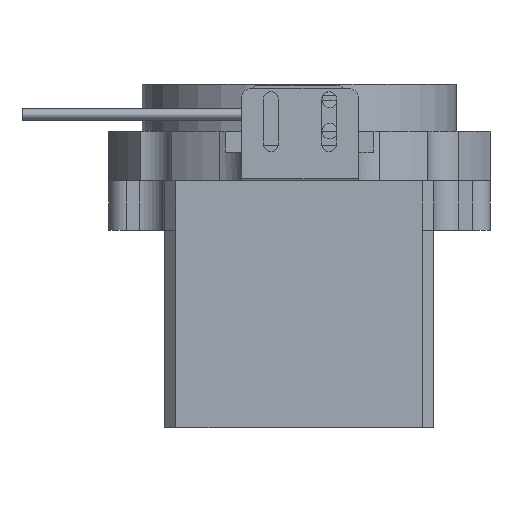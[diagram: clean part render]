
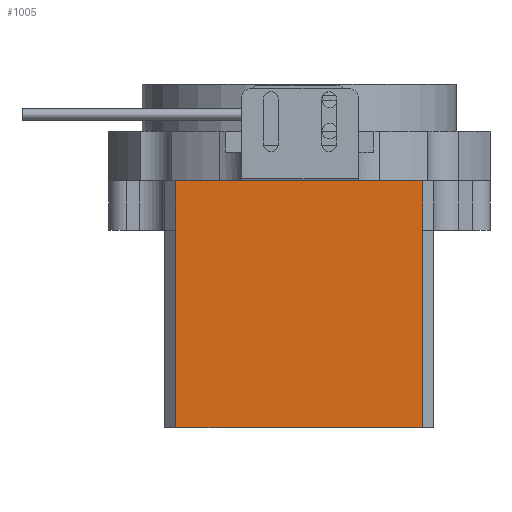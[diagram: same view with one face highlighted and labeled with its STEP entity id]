
A CAD part, front view. The second image highlights one B-rep face of the part: STEP entity #1005.
In plain terms, the highlighted planar face has unit normal (0, -1, 0).
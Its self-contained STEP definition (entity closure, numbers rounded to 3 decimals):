
#14 = CARTESIAN_POINT ( 'NONE',  ( 23.122, -60.467, 5.75 ) ) ;
#734 = VECTOR ( 'NONE', #17277, 1000. ) ;
#1005 = ADVANCED_FACE ( 'NONE', ( #4214 ), #17917, .F. ) ;
#1903 = DIRECTION ( 'NONE',  ( 1., 0., 0. ) ) ;
#2292 = VECTOR ( 'NONE', #27029, 1000. ) ;
#4214 = FACE_OUTER_BOUND ( 'NONE', #13590, .T. ) ;
#4637 = VECTOR ( 'NONE', #38061, 1000. ) ;
#5500 = VECTOR ( 'NONE', #62307, 1000. ) ;
#6724 = ORIENTED_EDGE ( 'NONE', *, *, #63860, .T. ) ;
#9513 = DIRECTION ( 'NONE',  ( 1., 0., 0. ) ) ;
#9818 = CARTESIAN_POINT ( 'NONE',  ( -31.878, -60.467, 16.75 ) ) ;
#13590 = EDGE_LOOP ( 'NONE', ( #6724, #54679, #19696, #35992, #35684, #60088 ) ) ;
#14512 = EDGE_CURVE ( 'NONE', #65666, #31486, #53789, .T. ) ;
#16252 = CARTESIAN_POINT ( 'NONE',  ( -31.878, -60.467, 38.25 ) ) ;
#17277 = DIRECTION ( 'NONE',  ( 0., 0., -1. ) ) ;
#17917 = PLANE ( 'NONE',  #28147 ) ;
#19696 = ORIENTED_EDGE ( 'NONE', *, *, #59384, .F. ) ;
#24779 = CARTESIAN_POINT ( 'NONE',  ( 23.122, -60.467, 16.75 ) ) ;
#26658 = VECTOR ( 'NONE', #56783, 1000. ) ;
#27029 = DIRECTION ( 'NONE',  ( 0., 0., -1. ) ) ;
#28147 = AXIS2_PLACEMENT_3D ( 'NONE', #56433, #55423, #9513 ) ;
#31486 = VERTEX_POINT ( 'NONE', #14 ) ;
#35684 = ORIENTED_EDGE ( 'NONE', *, *, #53393, .T. ) ;
#35992 = ORIENTED_EDGE ( 'NONE', *, *, #14512, .T. ) ;
#36449 = LINE ( 'NONE', #61982, #5500 ) ;
#38061 = DIRECTION ( 'NONE',  ( 0., 0., 1. ) ) ;
#40884 = CARTESIAN_POINT ( 'NONE',  ( -31.878, -60.467, 5.75 ) ) ;
#41893 = VERTEX_POINT ( 'NONE', #40884 ) ;
#43407 = CARTESIAN_POINT ( 'NONE',  ( -31.878, -60.467, 38.25 ) ) ;
#43461 = EDGE_CURVE ( 'NONE', #41893, #63066, #47421, .T. ) ;
#44705 = VERTEX_POINT ( 'NONE', #24779 ) ;
#46644 = VECTOR ( 'NONE', #1903, 1000. ) ;
#47421 = LINE ( 'NONE', #16252, #2292 ) ;
#47752 = CARTESIAN_POINT ( 'NONE',  ( -4.378, -60.467, 16.75 ) ) ;
#48114 = LINE ( 'NONE', #43407, #734 ) ;
#51118 = CARTESIAN_POINT ( 'NONE',  ( -31.878, -60.467, -38.25 ) ) ;
#53393 = EDGE_CURVE ( 'NONE', #31486, #44705, #58068, .T. ) ;
#53789 = LINE ( 'NONE', #64571, #4637 ) ;
#54679 = ORIENTED_EDGE ( 'NONE', *, *, #43461, .T. ) ;
#54821 = CARTESIAN_POINT ( 'NONE',  ( 23.122, -60.467, -38.25 ) ) ;
#55423 = DIRECTION ( 'NONE',  ( 0., 1., 0. ) ) ;
#56433 = CARTESIAN_POINT ( 'NONE',  ( -4.378, -60.467, 38.25 ) ) ;
#56783 = DIRECTION ( 'NONE',  ( 0., 0., 1. ) ) ;
#57827 = LINE ( 'NONE', #47752, #46644 ) ;
#58068 = LINE ( 'NONE', #58400, #26658 ) ;
#58400 = CARTESIAN_POINT ( 'NONE',  ( 23.122, -60.467, 16.75 ) ) ;
#59384 = EDGE_CURVE ( 'NONE', #65666, #63066, #36449, .T. ) ;
#60088 = ORIENTED_EDGE ( 'NONE', *, *, #62309, .F. ) ;
#60653 = VERTEX_POINT ( 'NONE', #9818 ) ;
#61982 = CARTESIAN_POINT ( 'NONE',  ( 25.622, -60.467, -38.25 ) ) ;
#62307 = DIRECTION ( 'NONE',  ( -1., 0., 0. ) ) ;
#62309 = EDGE_CURVE ( 'NONE', #60653, #44705, #57827, .T. ) ;
#63066 = VERTEX_POINT ( 'NONE', #51118 ) ;
#63860 = EDGE_CURVE ( 'NONE', #60653, #41893, #48114, .T. ) ;
#64571 = CARTESIAN_POINT ( 'NONE',  ( 23.122, -60.467, 5.75 ) ) ;
#65666 = VERTEX_POINT ( 'NONE', #54821 ) ;
